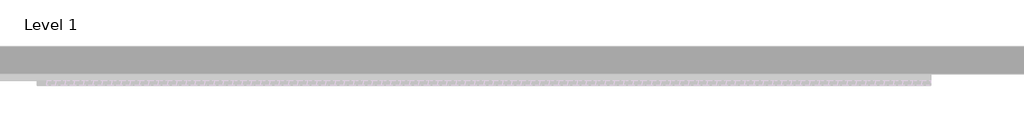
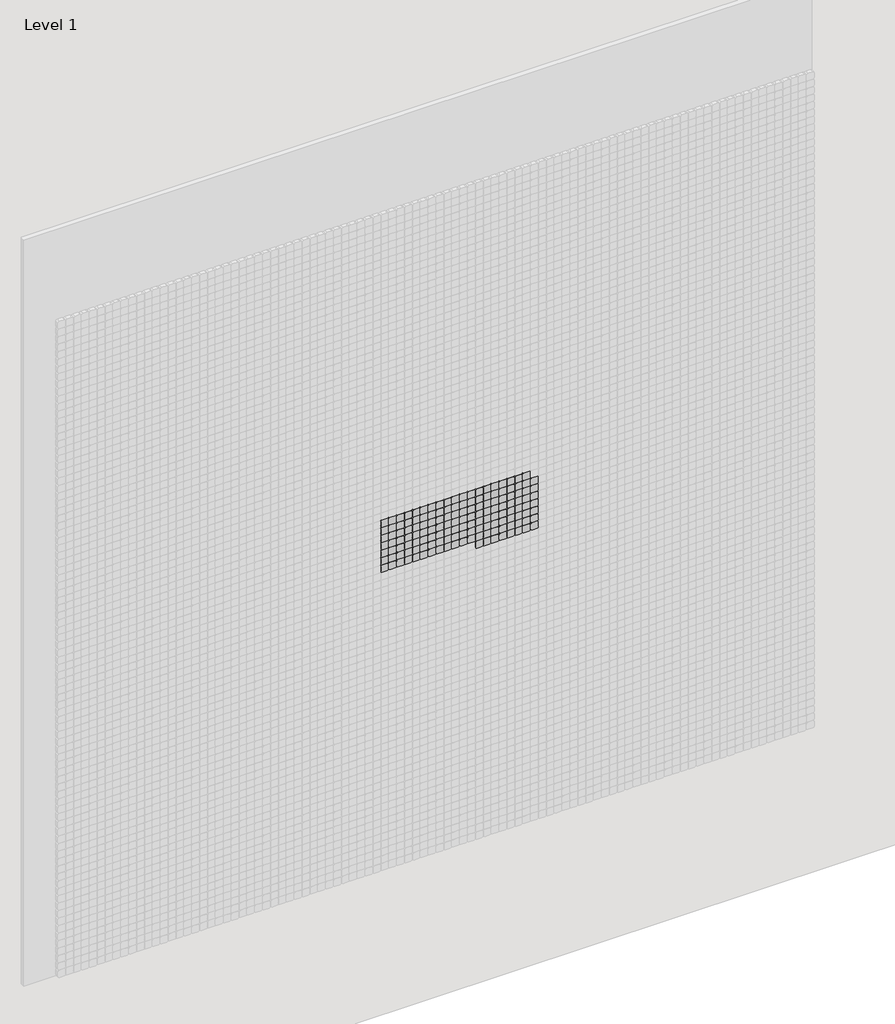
# One storey, part 42 of 71: 147 proxies.
"""IFC4 building model written with IfcOpenShell, lengths in millimetres."""

from ifc_helpers import new_model, si_unit, origin, place, context, project, spatial, transform, mapped, element, save
from components import generic_models_afde289c

model = new_model("IFC4")

# Units and contexts
model_context = context("Model", 3, world=origin())
ifc_project = project(units=[si_unit("LENGTHUNIT", "METRE", prefix="MILLI")], contexts=[model_context])

# Site, building, storey
site = spatial("IfcSite", under=ifc_project)
building = spatial("IfcBuilding", under=site)
storey = spatial("IfcBuildingStorey", under=building, Name="Level 1", Elevation=0.0)

# Proxies
placement = place(None, origin())
generic_models_shape = generic_models_afde289c(model_context)
element("IfcBuildingElementProxy", 1, Name="Pixel_M : Pixel_M", ObjectType="Pixel_M : Pixel_M", at=placement, inside=storey, context=model_context, shape_type="MappedRepresentation", body=[
    mapped(generic_models_shape, transform((7912.4280941, -75.0, 3316.3566215), x_axis=(1.0, 0.0, 0.0), y_axis=(0.0, 0.0, 1.0), z_axis=(0.0, -1.0, 0.0))),
])
element("IfcBuildingElementProxy", 2, Name="Pixel_M : Pixel_M", ObjectType="Pixel_M : Pixel_M", at=placement, inside=storey, context=model_context, shape_type="MappedRepresentation", body=[
    mapped(generic_models_shape, transform((7862.4280941, -75.0, 3316.3566215), x_axis=(1.0, 0.0, 0.0), y_axis=(0.0, 0.0, 1.0), z_axis=(0.0, -1.0, 0.0))),
])
element("IfcBuildingElementProxy", 3, Name="Pixel_M : Pixel_M", ObjectType="Pixel_M : Pixel_M", at=placement, inside=storey, context=model_context, shape_type="MappedRepresentation", body=[
    mapped(generic_models_shape, transform((7812.4280941, -75.0, 3316.3566215), x_axis=(1.0, 0.0, 0.0), y_axis=(0.0, 0.0, 1.0), z_axis=(0.0, -1.0, 0.0))),
])
element("IfcBuildingElementProxy", 4, Name="Pixel_M : Pixel_M", ObjectType="Pixel_M : Pixel_M", at=placement, inside=storey, context=model_context, shape_type="MappedRepresentation", body=[
    mapped(generic_models_shape, transform((7762.4280941, -75.0, 3316.3566215), x_axis=(1.0, 0.0, 0.0), y_axis=(0.0, 0.0, 1.0), z_axis=(0.0, -1.0, 0.0))),
])
element("IfcBuildingElementProxy", 5, Name="Pixel_M : Pixel_M", ObjectType="Pixel_M : Pixel_M", at=placement, inside=storey, context=model_context, shape_type="MappedRepresentation", body=[
    mapped(generic_models_shape, transform((7712.4280941, -75.0, 3316.3566215), x_axis=(1.0, 0.0, 0.0), y_axis=(0.0, 0.0, 1.0), z_axis=(0.0, -1.0, 0.0))),
])
element("IfcBuildingElementProxy", 6, Name="Pixel_M : Pixel_M", ObjectType="Pixel_M : Pixel_M", at=placement, inside=storey, context=model_context, shape_type="MappedRepresentation", body=[
    mapped(generic_models_shape, transform((7662.4280941, -75.0, 3316.3566215), x_axis=(1.0, 0.0, 0.0), y_axis=(0.0, 0.0, 1.0), z_axis=(0.0, -1.0, 0.0))),
])
element("IfcBuildingElementProxy", 7, Name="Pixel_M : Pixel_M", ObjectType="Pixel_M : Pixel_M", at=placement, inside=storey, context=model_context, shape_type="MappedRepresentation", body=[
    mapped(generic_models_shape, transform((7612.4280941, -75.0, 3316.3566215), x_axis=(1.0, 0.0, 0.0), y_axis=(0.0, 0.0, 1.0), z_axis=(0.0, -1.0, 0.0))),
])
element("IfcBuildingElementProxy", 8, Name="Pixel_M : Pixel_M", ObjectType="Pixel_M : Pixel_M", at=placement, inside=storey, context=model_context, shape_type="MappedRepresentation", body=[
    mapped(generic_models_shape, transform((7562.4280941, -75.0, 3316.3566215), x_axis=(1.0, 0.0, 0.0), y_axis=(0.0, 0.0, 1.0), z_axis=(0.0, -1.0, 0.0))),
])
element("IfcBuildingElementProxy", 9, Name="Pixel_M : Pixel_M", ObjectType="Pixel_M : Pixel_M", at=placement, inside=storey, context=model_context, shape_type="MappedRepresentation", body=[
    mapped(generic_models_shape, transform((7512.4280941, -75.0, 3316.3566215), x_axis=(1.0, 0.0, 0.0), y_axis=(0.0, 0.0, 1.0), z_axis=(0.0, -1.0, 0.0))),
])
element("IfcBuildingElementProxy", 10, Name="Pixel_M : Pixel_M", ObjectType="Pixel_M : Pixel_M", at=placement, inside=storey, context=model_context, shape_type="MappedRepresentation", body=[
    mapped(generic_models_shape, transform((7462.4280941, -75.0, 3316.3566215), x_axis=(1.0, 0.0, 0.0), y_axis=(0.0, 0.0, 1.0), z_axis=(0.0, -1.0, 0.0))),
])
element("IfcBuildingElementProxy", 11, Name="Pixel_M : Pixel_M", ObjectType="Pixel_M : Pixel_M", at=placement, inside=storey, context=model_context, shape_type="MappedRepresentation", body=[
    mapped(generic_models_shape, transform((7412.4280941, -75.0, 3316.3566215), x_axis=(1.0, 0.0, 0.0), y_axis=(0.0, 0.0, 1.0), z_axis=(0.0, -1.0, 0.0))),
])
element("IfcBuildingElementProxy", 12, Name="Pixel_M : Pixel_M", ObjectType="Pixel_M : Pixel_M", at=placement, inside=storey, context=model_context, shape_type="MappedRepresentation", body=[
    mapped(generic_models_shape, transform((7362.4280941, -75.0, 3316.3566215), x_axis=(1.0, 0.0, 0.0), y_axis=(0.0, 0.0, 1.0), z_axis=(0.0, -1.0, 0.0))),
])
element("IfcBuildingElementProxy", 13, Name="Pixel_M : Pixel_M", ObjectType="Pixel_M : Pixel_M", at=placement, inside=storey, context=model_context, shape_type="MappedRepresentation", body=[
    mapped(generic_models_shape, transform((7312.4280941, -75.0, 3316.3566215), x_axis=(1.0, 0.0, 0.0), y_axis=(0.0, 0.0, 1.0), z_axis=(0.0, -1.0, 0.0))),
])
element("IfcBuildingElementProxy", 14, Name="Pixel_M : Pixel_M", ObjectType="Pixel_M : Pixel_M", at=placement, inside=storey, context=model_context, shape_type="MappedRepresentation", body=[
    mapped(generic_models_shape, transform((7262.4280941, -75.0, 3316.3566215), x_axis=(1.0, 0.0, 0.0), y_axis=(0.0, 0.0, 1.0), z_axis=(0.0, -1.0, 0.0))),
])
element("IfcBuildingElementProxy", 15, Name="Pixel_M : Pixel_M", ObjectType="Pixel_M : Pixel_M", at=placement, inside=storey, context=model_context, shape_type="MappedRepresentation", body=[
    mapped(generic_models_shape, transform((7212.4280941, -75.0, 3316.3566215), x_axis=(1.0, 0.0, 0.0), y_axis=(0.0, 0.0, 1.0), z_axis=(0.0, -1.0, 0.0))),
])
element("IfcBuildingElementProxy", 16, Name="Pixel_M : Pixel_M", ObjectType="Pixel_M : Pixel_M", at=placement, inside=storey, context=model_context, shape_type="MappedRepresentation", body=[
    mapped(generic_models_shape, transform((7162.4280941, -75.0, 3316.3566215), x_axis=(1.0, 0.0, 0.0), y_axis=(0.0, 0.0, 1.0), z_axis=(0.0, -1.0, 0.0))),
])
element("IfcBuildingElementProxy", 17, Name="Pixel_M : Pixel_M", ObjectType="Pixel_M : Pixel_M", at=placement, inside=storey, context=model_context, shape_type="MappedRepresentation", body=[
    mapped(generic_models_shape, transform((7112.4280941, -75.0, 3316.3566215), x_axis=(1.0, 0.0, 0.0), y_axis=(0.0, 0.0, 1.0), z_axis=(0.0, -1.0, 0.0))),
])
element("IfcBuildingElementProxy", 18, Name="Pixel_M : Pixel_M", ObjectType="Pixel_M : Pixel_M", at=placement, inside=storey, context=model_context, shape_type="MappedRepresentation", body=[
    mapped(generic_models_shape, transform((7062.4280941, -75.0, 3316.3566215), x_axis=(1.0, 0.0, 0.0), y_axis=(0.0, 0.0, 1.0), z_axis=(0.0, -1.0, 0.0))),
])
element("IfcBuildingElementProxy", 19, Name="Pixel_M : Pixel_M", ObjectType="Pixel_M : Pixel_M", at=placement, inside=storey, context=model_context, shape_type="MappedRepresentation", body=[
    mapped(generic_models_shape, transform((7012.4280941, -75.0, 3316.3566215), x_axis=(1.0, 0.0, 0.0), y_axis=(0.0, 0.0, 1.0), z_axis=(0.0, -1.0, 0.0))),
])
element("IfcBuildingElementProxy", 20, Name="Pixel_M : Pixel_M", ObjectType="Pixel_M : Pixel_M", at=placement, inside=storey, context=model_context, shape_type="MappedRepresentation", body=[
    mapped(generic_models_shape, transform((7962.4280941, -75.0, 3266.3566215), x_axis=(1.0, 0.0, 0.0), y_axis=(0.0, 0.0, 1.0), z_axis=(0.0, -1.0, 0.0))),
])
element("IfcBuildingElementProxy", 21, Name="Pixel_M : Pixel_M", ObjectType="Pixel_M : Pixel_M", at=placement, inside=storey, context=model_context, shape_type="MappedRepresentation", body=[
    mapped(generic_models_shape, transform((7912.4280941, -75.0, 3266.3566215), x_axis=(1.0, 0.0, 0.0), y_axis=(0.0, 0.0, 1.0), z_axis=(0.0, -1.0, 0.0))),
])
element("IfcBuildingElementProxy", 22, Name="Pixel_M : Pixel_M", ObjectType="Pixel_M : Pixel_M", at=placement, inside=storey, context=model_context, shape_type="MappedRepresentation", body=[
    mapped(generic_models_shape, transform((7862.4280941, -75.0, 3266.3566215), x_axis=(1.0, 0.0, 0.0), y_axis=(0.0, 0.0, 1.0), z_axis=(0.0, -1.0, 0.0))),
])
element("IfcBuildingElementProxy", 23, Name="Pixel_M : Pixel_M", ObjectType="Pixel_M : Pixel_M", at=placement, inside=storey, context=model_context, shape_type="MappedRepresentation", body=[
    mapped(generic_models_shape, transform((7812.4280941, -75.0, 3266.3566215), x_axis=(1.0, 0.0, 0.0), y_axis=(0.0, 0.0, 1.0), z_axis=(0.0, -1.0, 0.0))),
])
element("IfcBuildingElementProxy", 24, Name="Pixel_M : Pixel_M", ObjectType="Pixel_M : Pixel_M", at=placement, inside=storey, context=model_context, shape_type="MappedRepresentation", body=[
    mapped(generic_models_shape, transform((7762.4280941, -75.0, 3266.3566215), x_axis=(1.0, 0.0, 0.0), y_axis=(0.0, 0.0, 1.0), z_axis=(0.0, -1.0, 0.0))),
])
element("IfcBuildingElementProxy", 25, Name="Pixel_M : Pixel_M", ObjectType="Pixel_M : Pixel_M", at=placement, inside=storey, context=model_context, shape_type="MappedRepresentation", body=[
    mapped(generic_models_shape, transform((7712.4280941, -75.0, 3266.3566215), x_axis=(1.0, 0.0, 0.0), y_axis=(0.0, 0.0, 1.0), z_axis=(0.0, -1.0, 0.0))),
])
element("IfcBuildingElementProxy", 26, Name="Pixel_M : Pixel_M", ObjectType="Pixel_M : Pixel_M", at=placement, inside=storey, context=model_context, shape_type="MappedRepresentation", body=[
    mapped(generic_models_shape, transform((7662.4280941, -75.0, 3266.3566215), x_axis=(1.0, 0.0, 0.0), y_axis=(0.0, 0.0, 1.0), z_axis=(0.0, -1.0, 0.0))),
])
element("IfcBuildingElementProxy", 27, Name="Pixel_M : Pixel_M", ObjectType="Pixel_M : Pixel_M", at=placement, inside=storey, context=model_context, shape_type="MappedRepresentation", body=[
    mapped(generic_models_shape, transform((7612.4280941, -75.0, 3266.3566215), x_axis=(1.0, 0.0, 0.0), y_axis=(0.0, 0.0, 1.0), z_axis=(0.0, -1.0, 0.0))),
])
element("IfcBuildingElementProxy", 28, Name="Pixel_M : Pixel_M", ObjectType="Pixel_M : Pixel_M", at=placement, inside=storey, context=model_context, shape_type="MappedRepresentation", body=[
    mapped(generic_models_shape, transform((7562.4280941, -75.0, 3266.3566215), x_axis=(1.0, 0.0, 0.0), y_axis=(0.0, 0.0, 1.0), z_axis=(0.0, -1.0, 0.0))),
])
element("IfcBuildingElementProxy", 29, Name="Pixel_M : Pixel_M", ObjectType="Pixel_M : Pixel_M", at=placement, inside=storey, context=model_context, shape_type="MappedRepresentation", body=[
    mapped(generic_models_shape, transform((7512.4280941, -75.0, 3266.3566215), x_axis=(1.0, 0.0, 0.0), y_axis=(0.0, 0.0, 1.0), z_axis=(0.0, -1.0, 0.0))),
])
element("IfcBuildingElementProxy", 30, Name="Pixel_M : Pixel_M", ObjectType="Pixel_M : Pixel_M", at=placement, inside=storey, context=model_context, shape_type="MappedRepresentation", body=[
    mapped(generic_models_shape, transform((7462.4280941, -75.0, 3266.3566215), x_axis=(1.0, 0.0, 0.0), y_axis=(0.0, 0.0, 1.0), z_axis=(0.0, -1.0, 0.0))),
])
element("IfcBuildingElementProxy", 31, Name="Pixel_M : Pixel_M", ObjectType="Pixel_M : Pixel_M", at=placement, inside=storey, context=model_context, shape_type="MappedRepresentation", body=[
    mapped(generic_models_shape, transform((7412.4280941, -75.0, 3266.3566215), x_axis=(1.0, 0.0, 0.0), y_axis=(0.0, 0.0, 1.0), z_axis=(0.0, -1.0, 0.0))),
])
element("IfcBuildingElementProxy", 32, Name="Pixel_M : Pixel_M", ObjectType="Pixel_M : Pixel_M", at=placement, inside=storey, context=model_context, shape_type="MappedRepresentation", body=[
    mapped(generic_models_shape, transform((7362.4280941, -75.0, 3266.3566215), x_axis=(1.0, 0.0, 0.0), y_axis=(0.0, 0.0, 1.0), z_axis=(0.0, -1.0, 0.0))),
])
element("IfcBuildingElementProxy", 33, Name="Pixel_M : Pixel_M", ObjectType="Pixel_M : Pixel_M", at=placement, inside=storey, context=model_context, shape_type="MappedRepresentation", body=[
    mapped(generic_models_shape, transform((7312.4280941, -75.0, 3266.3566215), x_axis=(1.0, 0.0, 0.0), y_axis=(0.0, 0.0, 1.0), z_axis=(0.0, -1.0, 0.0))),
])
element("IfcBuildingElementProxy", 34, Name="Pixel_M : Pixel_M", ObjectType="Pixel_M : Pixel_M", at=placement, inside=storey, context=model_context, shape_type="MappedRepresentation", body=[
    mapped(generic_models_shape, transform((7262.4280941, -75.0, 3266.3566215), x_axis=(1.0, 0.0, 0.0), y_axis=(0.0, 0.0, 1.0), z_axis=(0.0, -1.0, 0.0))),
])
element("IfcBuildingElementProxy", 35, Name="Pixel_M : Pixel_M", ObjectType="Pixel_M : Pixel_M", at=placement, inside=storey, context=model_context, shape_type="MappedRepresentation", body=[
    mapped(generic_models_shape, transform((7212.4280941, -75.0, 3266.3566215), x_axis=(1.0, 0.0, 0.0), y_axis=(0.0, 0.0, 1.0), z_axis=(0.0, -1.0, 0.0))),
])
element("IfcBuildingElementProxy", 36, Name="Pixel_M : Pixel_M", ObjectType="Pixel_M : Pixel_M", at=placement, inside=storey, context=model_context, shape_type="MappedRepresentation", body=[
    mapped(generic_models_shape, transform((7162.4280941, -75.0, 3266.3566215), x_axis=(1.0, 0.0, 0.0), y_axis=(0.0, 0.0, 1.0), z_axis=(0.0, -1.0, 0.0))),
])
element("IfcBuildingElementProxy", 37, Name="Pixel_M : Pixel_M", ObjectType="Pixel_M : Pixel_M", at=placement, inside=storey, context=model_context, shape_type="MappedRepresentation", body=[
    mapped(generic_models_shape, transform((7112.4280941, -75.0, 3266.3566215), x_axis=(1.0, 0.0, 0.0), y_axis=(0.0, 0.0, 1.0), z_axis=(0.0, -1.0, 0.0))),
])
element("IfcBuildingElementProxy", 38, Name="Pixel_M : Pixel_M", ObjectType="Pixel_M : Pixel_M", at=placement, inside=storey, context=model_context, shape_type="MappedRepresentation", body=[
    mapped(generic_models_shape, transform((7062.4280941, -75.0, 3266.3566215), x_axis=(1.0, 0.0, 0.0), y_axis=(0.0, 0.0, 1.0), z_axis=(0.0, -1.0, 0.0))),
])
element("IfcBuildingElementProxy", 39, Name="Pixel_M : Pixel_M", ObjectType="Pixel_M : Pixel_M", at=placement, inside=storey, context=model_context, shape_type="MappedRepresentation", body=[
    mapped(generic_models_shape, transform((7012.4280941, -75.0, 3266.3566215), x_axis=(1.0, 0.0, 0.0), y_axis=(0.0, 0.0, 1.0), z_axis=(0.0, -1.0, 0.0))),
])
element("IfcBuildingElementProxy", 40, Name="Pixel_M : Pixel_M", ObjectType="Pixel_M : Pixel_M", at=placement, inside=storey, context=model_context, shape_type="MappedRepresentation", body=[
    mapped(generic_models_shape, transform((7962.4280941, -75.0, 3216.3566215), x_axis=(1.0, 0.0, 0.0), y_axis=(0.0, 0.0, 1.0), z_axis=(0.0, -1.0, 0.0))),
])
element("IfcBuildingElementProxy", 41, Name="Pixel_M : Pixel_M", ObjectType="Pixel_M : Pixel_M", at=placement, inside=storey, context=model_context, shape_type="MappedRepresentation", body=[
    mapped(generic_models_shape, transform((7912.4280941, -75.0, 3216.3566215), x_axis=(1.0, 0.0, 0.0), y_axis=(0.0, 0.0, 1.0), z_axis=(0.0, -1.0, 0.0))),
])
element("IfcBuildingElementProxy", 42, Name="Pixel_M : Pixel_M", ObjectType="Pixel_M : Pixel_M", at=placement, inside=storey, context=model_context, shape_type="MappedRepresentation", body=[
    mapped(generic_models_shape, transform((7862.4280941, -75.0, 3216.3566215), x_axis=(1.0, 0.0, 0.0), y_axis=(0.0, 0.0, 1.0), z_axis=(0.0, -1.0, 0.0))),
])
element("IfcBuildingElementProxy", 43, Name="Pixel_M : Pixel_M", ObjectType="Pixel_M : Pixel_M", at=placement, inside=storey, context=model_context, shape_type="MappedRepresentation", body=[
    mapped(generic_models_shape, transform((7812.4280941, -75.0, 3216.3566215), x_axis=(1.0, 0.0, 0.0), y_axis=(0.0, 0.0, 1.0), z_axis=(0.0, -1.0, 0.0))),
])
element("IfcBuildingElementProxy", 44, Name="Pixel_M : Pixel_M", ObjectType="Pixel_M : Pixel_M", at=placement, inside=storey, context=model_context, shape_type="MappedRepresentation", body=[
    mapped(generic_models_shape, transform((7762.4280941, -75.0, 3216.3566215), x_axis=(1.0, 0.0, 0.0), y_axis=(0.0, 0.0, 1.0), z_axis=(0.0, -1.0, 0.0))),
])
element("IfcBuildingElementProxy", 45, Name="Pixel_M : Pixel_M", ObjectType="Pixel_M : Pixel_M", at=placement, inside=storey, context=model_context, shape_type="MappedRepresentation", body=[
    mapped(generic_models_shape, transform((7712.4280941, -75.0, 3216.3566215), x_axis=(1.0, 0.0, 0.0), y_axis=(0.0, 0.0, 1.0), z_axis=(0.0, -1.0, 0.0))),
])
element("IfcBuildingElementProxy", 46, Name="Pixel_M : Pixel_M", ObjectType="Pixel_M : Pixel_M", at=placement, inside=storey, context=model_context, shape_type="MappedRepresentation", body=[
    mapped(generic_models_shape, transform((7662.4280941, -75.0, 3216.3566215), x_axis=(1.0, 0.0, 0.0), y_axis=(0.0, 0.0, 1.0), z_axis=(0.0, -1.0, 0.0))),
])
element("IfcBuildingElementProxy", 47, Name="Pixel_M : Pixel_M", ObjectType="Pixel_M : Pixel_M", at=placement, inside=storey, context=model_context, shape_type="MappedRepresentation", body=[
    mapped(generic_models_shape, transform((7612.4280941, -75.0, 3216.3566215), x_axis=(1.0, 0.0, 0.0), y_axis=(0.0, 0.0, 1.0), z_axis=(0.0, -1.0, 0.0))),
])
element("IfcBuildingElementProxy", 48, Name="Pixel_M : Pixel_M", ObjectType="Pixel_M : Pixel_M", at=placement, inside=storey, context=model_context, shape_type="MappedRepresentation", body=[
    mapped(generic_models_shape, transform((7562.4280941, -75.0, 3216.3566215), x_axis=(1.0, 0.0, 0.0), y_axis=(0.0, 0.0, 1.0), z_axis=(0.0, -1.0, 0.0))),
])
element("IfcBuildingElementProxy", 49, Name="Pixel_M : Pixel_M", ObjectType="Pixel_M : Pixel_M", at=placement, inside=storey, context=model_context, shape_type="MappedRepresentation", body=[
    mapped(generic_models_shape, transform((7512.4280941, -75.0, 3216.3566215), x_axis=(1.0, 0.0, 0.0), y_axis=(0.0, 0.0, 1.0), z_axis=(0.0, -1.0, 0.0))),
])
element("IfcBuildingElementProxy", 50, Name="Pixel_M : Pixel_M", ObjectType="Pixel_M : Pixel_M", at=placement, inside=storey, context=model_context, shape_type="MappedRepresentation", body=[
    mapped(generic_models_shape, transform((7462.4280941, -75.0, 3216.3566215), x_axis=(1.0, 0.0, 0.0), y_axis=(0.0, 0.0, 1.0), z_axis=(0.0, -1.0, 0.0))),
])
element("IfcBuildingElementProxy", 51, Name="Pixel_M : Pixel_M", ObjectType="Pixel_M : Pixel_M", at=placement, inside=storey, context=model_context, shape_type="MappedRepresentation", body=[
    mapped(generic_models_shape, transform((7412.4280941, -75.0, 3216.3566215), x_axis=(1.0, 0.0, 0.0), y_axis=(0.0, 0.0, 1.0), z_axis=(0.0, -1.0, 0.0))),
])
element("IfcBuildingElementProxy", 52, Name="Pixel_M : Pixel_M", ObjectType="Pixel_M : Pixel_M", at=placement, inside=storey, context=model_context, shape_type="MappedRepresentation", body=[
    mapped(generic_models_shape, transform((7362.4280941, -75.0, 3216.3566215), x_axis=(1.0, 0.0, 0.0), y_axis=(0.0, 0.0, 1.0), z_axis=(0.0, -1.0, 0.0))),
])
element("IfcBuildingElementProxy", 53, Name="Pixel_M : Pixel_M", ObjectType="Pixel_M : Pixel_M", at=placement, inside=storey, context=model_context, shape_type="MappedRepresentation", body=[
    mapped(generic_models_shape, transform((7312.4280941, -75.0, 3216.3566215), x_axis=(1.0, 0.0, 0.0), y_axis=(0.0, 0.0, 1.0), z_axis=(0.0, -1.0, 0.0))),
])
element("IfcBuildingElementProxy", 54, Name="Pixel_M : Pixel_M", ObjectType="Pixel_M : Pixel_M", at=placement, inside=storey, context=model_context, shape_type="MappedRepresentation", body=[
    mapped(generic_models_shape, transform((7262.4280941, -75.0, 3216.3566215), x_axis=(1.0, 0.0, 0.0), y_axis=(0.0, 0.0, 1.0), z_axis=(0.0, -1.0, 0.0))),
])
element("IfcBuildingElementProxy", 55, Name="Pixel_M : Pixel_M", ObjectType="Pixel_M : Pixel_M", at=placement, inside=storey, context=model_context, shape_type="MappedRepresentation", body=[
    mapped(generic_models_shape, transform((7212.4280941, -75.0, 3216.3566215), x_axis=(1.0, 0.0, 0.0), y_axis=(0.0, 0.0, 1.0), z_axis=(0.0, -1.0, 0.0))),
])
element("IfcBuildingElementProxy", 56, Name="Pixel_M : Pixel_M", ObjectType="Pixel_M : Pixel_M", at=placement, inside=storey, context=model_context, shape_type="MappedRepresentation", body=[
    mapped(generic_models_shape, transform((7162.4280941, -75.0, 3216.3566215), x_axis=(1.0, 0.0, 0.0), y_axis=(0.0, 0.0, 1.0), z_axis=(0.0, -1.0, 0.0))),
])
element("IfcBuildingElementProxy", 57, Name="Pixel_M : Pixel_M", ObjectType="Pixel_M : Pixel_M", at=placement, inside=storey, context=model_context, shape_type="MappedRepresentation", body=[
    mapped(generic_models_shape, transform((7112.4280941, -75.0, 3216.3566215), x_axis=(1.0, 0.0, 0.0), y_axis=(0.0, 0.0, 1.0), z_axis=(0.0, -1.0, 0.0))),
])
element("IfcBuildingElementProxy", 58, Name="Pixel_M : Pixel_M", ObjectType="Pixel_M : Pixel_M", at=placement, inside=storey, context=model_context, shape_type="MappedRepresentation", body=[
    mapped(generic_models_shape, transform((7062.4280941, -75.0, 3216.3566215), x_axis=(1.0, 0.0, 0.0), y_axis=(0.0, 0.0, 1.0), z_axis=(0.0, -1.0, 0.0))),
])
element("IfcBuildingElementProxy", 59, Name="Pixel_M : Pixel_M", ObjectType="Pixel_M : Pixel_M", at=placement, inside=storey, context=model_context, shape_type="MappedRepresentation", body=[
    mapped(generic_models_shape, transform((7012.4280941, -75.0, 3216.3566215), x_axis=(1.0, 0.0, 0.0), y_axis=(0.0, 0.0, 1.0), z_axis=(0.0, -1.0, 0.0))),
])
element("IfcBuildingElementProxy", 60, Name="Pixel_M : Pixel_M", ObjectType="Pixel_M : Pixel_M", at=placement, inside=storey, context=model_context, shape_type="MappedRepresentation", body=[
    mapped(generic_models_shape, transform((7962.4280941, -75.0, 3166.3566215), x_axis=(1.0, 0.0, 0.0), y_axis=(0.0, 0.0, 1.0), z_axis=(0.0, -1.0, 0.0))),
])
element("IfcBuildingElementProxy", 61, Name="Pixel_M : Pixel_M", ObjectType="Pixel_M : Pixel_M", at=placement, inside=storey, context=model_context, shape_type="MappedRepresentation", body=[
    mapped(generic_models_shape, transform((7912.4280941, -75.0, 3166.3566215), x_axis=(1.0, 0.0, 0.0), y_axis=(0.0, 0.0, 1.0), z_axis=(0.0, -1.0, 0.0))),
])
element("IfcBuildingElementProxy", 62, Name="Pixel_M : Pixel_M", ObjectType="Pixel_M : Pixel_M", at=placement, inside=storey, context=model_context, shape_type="MappedRepresentation", body=[
    mapped(generic_models_shape, transform((7862.4280941, -75.0, 3166.3566215), x_axis=(1.0, 0.0, 0.0), y_axis=(0.0, 0.0, 1.0), z_axis=(0.0, -1.0, 0.0))),
])
element("IfcBuildingElementProxy", 63, Name="Pixel_M : Pixel_M", ObjectType="Pixel_M : Pixel_M", at=placement, inside=storey, context=model_context, shape_type="MappedRepresentation", body=[
    mapped(generic_models_shape, transform((7812.4280941, -75.0, 3166.3566215), x_axis=(1.0, 0.0, 0.0), y_axis=(0.0, 0.0, 1.0), z_axis=(0.0, -1.0, 0.0))),
])
element("IfcBuildingElementProxy", 64, Name="Pixel_M : Pixel_M", ObjectType="Pixel_M : Pixel_M", at=placement, inside=storey, context=model_context, shape_type="MappedRepresentation", body=[
    mapped(generic_models_shape, transform((7762.4280941, -75.0, 3166.3566215), x_axis=(1.0, 0.0, 0.0), y_axis=(0.0, 0.0, 1.0), z_axis=(0.0, -1.0, 0.0))),
])
element("IfcBuildingElementProxy", 65, Name="Pixel_M : Pixel_M", ObjectType="Pixel_M : Pixel_M", at=placement, inside=storey, context=model_context, shape_type="MappedRepresentation", body=[
    mapped(generic_models_shape, transform((7712.4280941, -75.0, 3166.3566215), x_axis=(1.0, 0.0, 0.0), y_axis=(0.0, 0.0, 1.0), z_axis=(0.0, -1.0, 0.0))),
])
element("IfcBuildingElementProxy", 66, Name="Pixel_M : Pixel_M", ObjectType="Pixel_M : Pixel_M", at=placement, inside=storey, context=model_context, shape_type="MappedRepresentation", body=[
    mapped(generic_models_shape, transform((7662.4280941, -75.0, 3166.3566215), x_axis=(1.0, 0.0, 0.0), y_axis=(0.0, 0.0, 1.0), z_axis=(0.0, -1.0, 0.0))),
])
element("IfcBuildingElementProxy", 67, Name="Pixel_M : Pixel_M", ObjectType="Pixel_M : Pixel_M", at=placement, inside=storey, context=model_context, shape_type="MappedRepresentation", body=[
    mapped(generic_models_shape, transform((7612.4280941, -75.0, 3166.3566215), x_axis=(1.0, 0.0, 0.0), y_axis=(0.0, 0.0, 1.0), z_axis=(0.0, -1.0, 0.0))),
])
element("IfcBuildingElementProxy", 68, Name="Pixel_M : Pixel_M", ObjectType="Pixel_M : Pixel_M", at=placement, inside=storey, context=model_context, shape_type="MappedRepresentation", body=[
    mapped(generic_models_shape, transform((7562.4280941, -75.0, 3166.3566215), x_axis=(1.0, 0.0, 0.0), y_axis=(0.0, 0.0, 1.0), z_axis=(0.0, -1.0, 0.0))),
])
element("IfcBuildingElementProxy", 69, Name="Pixel_M : Pixel_M", ObjectType="Pixel_M : Pixel_M", at=placement, inside=storey, context=model_context, shape_type="MappedRepresentation", body=[
    mapped(generic_models_shape, transform((7512.4280941, -75.0, 3166.3566215), x_axis=(1.0, 0.0, 0.0), y_axis=(0.0, 0.0, 1.0), z_axis=(0.0, -1.0, 0.0))),
])
element("IfcBuildingElementProxy", 70, Name="Pixel_M : Pixel_M", ObjectType="Pixel_M : Pixel_M", at=placement, inside=storey, context=model_context, shape_type="MappedRepresentation", body=[
    mapped(generic_models_shape, transform((7462.4280941, -75.0, 3166.3566215), x_axis=(1.0, 0.0, 0.0), y_axis=(0.0, 0.0, 1.0), z_axis=(0.0, -1.0, 0.0))),
])
element("IfcBuildingElementProxy", 71, Name="Pixel_M : Pixel_M", ObjectType="Pixel_M : Pixel_M", at=placement, inside=storey, context=model_context, shape_type="MappedRepresentation", body=[
    mapped(generic_models_shape, transform((7412.4280941, -75.0, 3166.3566215), x_axis=(1.0, 0.0, 0.0), y_axis=(0.0, 0.0, 1.0), z_axis=(0.0, -1.0, 0.0))),
])
element("IfcBuildingElementProxy", 72, Name="Pixel_M : Pixel_M", ObjectType="Pixel_M : Pixel_M", at=placement, inside=storey, context=model_context, shape_type="MappedRepresentation", body=[
    mapped(generic_models_shape, transform((7362.4280941, -75.0, 3166.3566215), x_axis=(1.0, 0.0, 0.0), y_axis=(0.0, 0.0, 1.0), z_axis=(0.0, -1.0, 0.0))),
])
element("IfcBuildingElementProxy", 73, Name="Pixel_M : Pixel_M", ObjectType="Pixel_M : Pixel_M", at=placement, inside=storey, context=model_context, shape_type="MappedRepresentation", body=[
    mapped(generic_models_shape, transform((7312.4280941, -75.0, 3166.3566215), x_axis=(1.0, 0.0, 0.0), y_axis=(0.0, 0.0, 1.0), z_axis=(0.0, -1.0, 0.0))),
])
element("IfcBuildingElementProxy", 74, Name="Pixel_M : Pixel_M", ObjectType="Pixel_M : Pixel_M", at=placement, inside=storey, context=model_context, shape_type="MappedRepresentation", body=[
    mapped(generic_models_shape, transform((7262.4280941, -75.0, 3166.3566215), x_axis=(1.0, 0.0, 0.0), y_axis=(0.0, 0.0, 1.0), z_axis=(0.0, -1.0, 0.0))),
])
element("IfcBuildingElementProxy", 75, Name="Pixel_M : Pixel_M", ObjectType="Pixel_M : Pixel_M", at=placement, inside=storey, context=model_context, shape_type="MappedRepresentation", body=[
    mapped(generic_models_shape, transform((7212.4280941, -75.0, 3166.3566215), x_axis=(1.0, 0.0, 0.0), y_axis=(0.0, 0.0, 1.0), z_axis=(0.0, -1.0, 0.0))),
])
element("IfcBuildingElementProxy", 76, Name="Pixel_M : Pixel_M", ObjectType="Pixel_M : Pixel_M", at=placement, inside=storey, context=model_context, shape_type="MappedRepresentation", body=[
    mapped(generic_models_shape, transform((7162.4280941, -75.0, 3166.3566215), x_axis=(1.0, 0.0, 0.0), y_axis=(0.0, 0.0, 1.0), z_axis=(0.0, -1.0, 0.0))),
])
element("IfcBuildingElementProxy", 77, Name="Pixel_M : Pixel_M", ObjectType="Pixel_M : Pixel_M", at=placement, inside=storey, context=model_context, shape_type="MappedRepresentation", body=[
    mapped(generic_models_shape, transform((7112.4280941, -75.0, 3166.3566215), x_axis=(1.0, 0.0, 0.0), y_axis=(0.0, 0.0, 1.0), z_axis=(0.0, -1.0, 0.0))),
])
element("IfcBuildingElementProxy", 78, Name="Pixel_M : Pixel_M", ObjectType="Pixel_M : Pixel_M", at=placement, inside=storey, context=model_context, shape_type="MappedRepresentation", body=[
    mapped(generic_models_shape, transform((7062.4280941, -75.0, 3166.3566215), x_axis=(1.0, 0.0, 0.0), y_axis=(0.0, 0.0, 1.0), z_axis=(0.0, -1.0, 0.0))),
])
element("IfcBuildingElementProxy", 79, Name="Pixel_M : Pixel_M", ObjectType="Pixel_M : Pixel_M", at=placement, inside=storey, context=model_context, shape_type="MappedRepresentation", body=[
    mapped(generic_models_shape, transform((7012.4280941, -75.0, 3166.3566215), x_axis=(1.0, 0.0, 0.0), y_axis=(0.0, 0.0, 1.0), z_axis=(0.0, -1.0, 0.0))),
])
element("IfcBuildingElementProxy", 80, Name="Pixel_M : Pixel_M", ObjectType="Pixel_M : Pixel_M", at=placement, inside=storey, context=model_context, shape_type="MappedRepresentation", body=[
    mapped(generic_models_shape, transform((7962.4280941, -75.0, 3116.3566215), x_axis=(1.0, 0.0, 0.0), y_axis=(0.0, 0.0, 1.0), z_axis=(0.0, -1.0, 0.0))),
])
element("IfcBuildingElementProxy", 81, Name="Pixel_M : Pixel_M", ObjectType="Pixel_M : Pixel_M", at=placement, inside=storey, context=model_context, shape_type="MappedRepresentation", body=[
    mapped(generic_models_shape, transform((7912.4280941, -75.0, 3116.3566215), x_axis=(1.0, 0.0, 0.0), y_axis=(0.0, 0.0, 1.0), z_axis=(0.0, -1.0, 0.0))),
])
element("IfcBuildingElementProxy", 82, Name="Pixel_M : Pixel_M", ObjectType="Pixel_M : Pixel_M", at=placement, inside=storey, context=model_context, shape_type="MappedRepresentation", body=[
    mapped(generic_models_shape, transform((7862.4280941, -75.0, 3116.3566215), x_axis=(1.0, 0.0, 0.0), y_axis=(0.0, 0.0, 1.0), z_axis=(0.0, -1.0, 0.0))),
])
element("IfcBuildingElementProxy", 83, Name="Pixel_M : Pixel_M", ObjectType="Pixel_M : Pixel_M", at=placement, inside=storey, context=model_context, shape_type="MappedRepresentation", body=[
    mapped(generic_models_shape, transform((7812.4280941, -75.0, 3116.3566215), x_axis=(1.0, 0.0, 0.0), y_axis=(0.0, 0.0, 1.0), z_axis=(0.0, -1.0, 0.0))),
])
element("IfcBuildingElementProxy", 84, Name="Pixel_M : Pixel_M", ObjectType="Pixel_M : Pixel_M", at=placement, inside=storey, context=model_context, shape_type="MappedRepresentation", body=[
    mapped(generic_models_shape, transform((7762.4280941, -75.0, 3116.3566215), x_axis=(1.0, 0.0, 0.0), y_axis=(0.0, 0.0, 1.0), z_axis=(0.0, -1.0, 0.0))),
])
element("IfcBuildingElementProxy", 85, Name="Pixel_M : Pixel_M", ObjectType="Pixel_M : Pixel_M", at=placement, inside=storey, context=model_context, shape_type="MappedRepresentation", body=[
    mapped(generic_models_shape, transform((7712.4280941, -75.0, 3116.3566215), x_axis=(1.0, 0.0, 0.0), y_axis=(0.0, 0.0, 1.0), z_axis=(0.0, -1.0, 0.0))),
])
element("IfcBuildingElementProxy", 86, Name="Pixel_M : Pixel_M", ObjectType="Pixel_M : Pixel_M", at=placement, inside=storey, context=model_context, shape_type="MappedRepresentation", body=[
    mapped(generic_models_shape, transform((7662.4280941, -75.0, 3116.3566215), x_axis=(1.0, 0.0, 0.0), y_axis=(0.0, 0.0, 1.0), z_axis=(0.0, -1.0, 0.0))),
])
element("IfcBuildingElementProxy", 87, Name="Pixel_M : Pixel_M", ObjectType="Pixel_M : Pixel_M", at=placement, inside=storey, context=model_context, shape_type="MappedRepresentation", body=[
    mapped(generic_models_shape, transform((7612.4280941, -75.0, 3116.3566215), x_axis=(1.0, 0.0, 0.0), y_axis=(0.0, 0.0, 1.0), z_axis=(0.0, -1.0, 0.0))),
])
element("IfcBuildingElementProxy", 88, Name="Pixel_M : Pixel_M", ObjectType="Pixel_M : Pixel_M", at=placement, inside=storey, context=model_context, shape_type="MappedRepresentation", body=[
    mapped(generic_models_shape, transform((7562.4280941, -75.0, 3116.3566215), x_axis=(1.0, 0.0, 0.0), y_axis=(0.0, 0.0, 1.0), z_axis=(0.0, -1.0, 0.0))),
])
element("IfcBuildingElementProxy", 89, Name="Pixel_M : Pixel_M", ObjectType="Pixel_M : Pixel_M", at=placement, inside=storey, context=model_context, shape_type="MappedRepresentation", body=[
    mapped(generic_models_shape, transform((7512.4280941, -75.0, 3116.3566215), x_axis=(1.0, 0.0, 0.0), y_axis=(0.0, 0.0, 1.0), z_axis=(0.0, -1.0, 0.0))),
])
element("IfcBuildingElementProxy", 90, Name="Pixel_M : Pixel_M", ObjectType="Pixel_M : Pixel_M", at=placement, inside=storey, context=model_context, shape_type="MappedRepresentation", body=[
    mapped(generic_models_shape, transform((7462.4280941, -75.0, 3116.3566215), x_axis=(1.0, 0.0, 0.0), y_axis=(0.0, 0.0, 1.0), z_axis=(0.0, -1.0, 0.0))),
])
element("IfcBuildingElementProxy", 91, Name="Pixel_M : Pixel_M", ObjectType="Pixel_M : Pixel_M", at=placement, inside=storey, context=model_context, shape_type="MappedRepresentation", body=[
    mapped(generic_models_shape, transform((7412.4280941, -75.0, 3116.3566215), x_axis=(1.0, 0.0, 0.0), y_axis=(0.0, 0.0, 1.0), z_axis=(0.0, -1.0, 0.0))),
])
element("IfcBuildingElementProxy", 92, Name="Pixel_M : Pixel_M", ObjectType="Pixel_M : Pixel_M", at=placement, inside=storey, context=model_context, shape_type="MappedRepresentation", body=[
    mapped(generic_models_shape, transform((7362.4280941, -75.0, 3116.3566215), x_axis=(1.0, 0.0, 0.0), y_axis=(0.0, 0.0, 1.0), z_axis=(0.0, -1.0, 0.0))),
])
element("IfcBuildingElementProxy", 93, Name="Pixel_M : Pixel_M", ObjectType="Pixel_M : Pixel_M", at=placement, inside=storey, context=model_context, shape_type="MappedRepresentation", body=[
    mapped(generic_models_shape, transform((7312.4280941, -75.0, 3116.3566215), x_axis=(1.0, 0.0, 0.0), y_axis=(0.0, 0.0, 1.0), z_axis=(0.0, -1.0, 0.0))),
])
element("IfcBuildingElementProxy", 94, Name="Pixel_M : Pixel_M", ObjectType="Pixel_M : Pixel_M", at=placement, inside=storey, context=model_context, shape_type="MappedRepresentation", body=[
    mapped(generic_models_shape, transform((7262.4280941, -75.0, 3116.3566215), x_axis=(1.0, 0.0, 0.0), y_axis=(0.0, 0.0, 1.0), z_axis=(0.0, -1.0, 0.0))),
])
element("IfcBuildingElementProxy", 95, Name="Pixel_M : Pixel_M", ObjectType="Pixel_M : Pixel_M", at=placement, inside=storey, context=model_context, shape_type="MappedRepresentation", body=[
    mapped(generic_models_shape, transform((7212.4280941, -75.0, 3116.3566215), x_axis=(1.0, 0.0, 0.0), y_axis=(0.0, 0.0, 1.0), z_axis=(0.0, -1.0, 0.0))),
])
element("IfcBuildingElementProxy", 96, Name="Pixel_M : Pixel_M", ObjectType="Pixel_M : Pixel_M", at=placement, inside=storey, context=model_context, shape_type="MappedRepresentation", body=[
    mapped(generic_models_shape, transform((7162.4280941, -75.0, 3116.3566215), x_axis=(1.0, 0.0, 0.0), y_axis=(0.0, 0.0, 1.0), z_axis=(0.0, -1.0, 0.0))),
])
element("IfcBuildingElementProxy", 97, Name="Pixel_M : Pixel_M", ObjectType="Pixel_M : Pixel_M", at=placement, inside=storey, context=model_context, shape_type="MappedRepresentation", body=[
    mapped(generic_models_shape, transform((7112.4280941, -75.0, 3116.3566215), x_axis=(1.0, 0.0, 0.0), y_axis=(0.0, 0.0, 1.0), z_axis=(0.0, -1.0, 0.0))),
])
element("IfcBuildingElementProxy", 98, Name="Pixel_M : Pixel_M", ObjectType="Pixel_M : Pixel_M", at=placement, inside=storey, context=model_context, shape_type="MappedRepresentation", body=[
    mapped(generic_models_shape, transform((7062.4280941, -75.0, 3116.3566215), x_axis=(1.0, 0.0, 0.0), y_axis=(0.0, 0.0, 1.0), z_axis=(0.0, -1.0, 0.0))),
])
element("IfcBuildingElementProxy", 99, Name="Pixel_M : Pixel_M", ObjectType="Pixel_M : Pixel_M", at=placement, inside=storey, context=model_context, shape_type="MappedRepresentation", body=[
    mapped(generic_models_shape, transform((7012.4280941, -75.0, 3116.3566215), x_axis=(1.0, 0.0, 0.0), y_axis=(0.0, 0.0, 1.0), z_axis=(0.0, -1.0, 0.0))),
])
element("IfcBuildingElementProxy", 100, Name="Pixel_M : Pixel_M", ObjectType="Pixel_M : Pixel_M", at=placement, inside=storey, context=model_context, shape_type="MappedRepresentation", body=[
    mapped(generic_models_shape, transform((7962.4280941, -75.0, 3066.3566215), x_axis=(1.0, 0.0, 0.0), y_axis=(0.0, 0.0, 1.0), z_axis=(0.0, -1.0, 0.0))),
])
element("IfcBuildingElementProxy", 101, Name="Pixel_M : Pixel_M", ObjectType="Pixel_M : Pixel_M", at=placement, inside=storey, context=model_context, shape_type="MappedRepresentation", body=[
    mapped(generic_models_shape, transform((7912.4280941, -75.0, 3066.3566215), x_axis=(1.0, 0.0, 0.0), y_axis=(0.0, 0.0, 1.0), z_axis=(0.0, -1.0, 0.0))),
])
element("IfcBuildingElementProxy", 102, Name="Pixel_M : Pixel_M", ObjectType="Pixel_M : Pixel_M", at=placement, inside=storey, context=model_context, shape_type="MappedRepresentation", body=[
    mapped(generic_models_shape, transform((7862.4280941, -75.0, 3066.3566215), x_axis=(1.0, 0.0, 0.0), y_axis=(0.0, 0.0, 1.0), z_axis=(0.0, -1.0, 0.0))),
])
element("IfcBuildingElementProxy", 103, Name="Pixel_M : Pixel_M", ObjectType="Pixel_M : Pixel_M", at=placement, inside=storey, context=model_context, shape_type="MappedRepresentation", body=[
    mapped(generic_models_shape, transform((7812.4280941, -75.0, 3066.3566215), x_axis=(1.0, 0.0, 0.0), y_axis=(0.0, 0.0, 1.0), z_axis=(0.0, -1.0, 0.0))),
])
element("IfcBuildingElementProxy", 104, Name="Pixel_M : Pixel_M", ObjectType="Pixel_M : Pixel_M", at=placement, inside=storey, context=model_context, shape_type="MappedRepresentation", body=[
    mapped(generic_models_shape, transform((7762.4280941, -75.0, 3066.3566215), x_axis=(1.0, 0.0, 0.0), y_axis=(0.0, 0.0, 1.0), z_axis=(0.0, -1.0, 0.0))),
])
element("IfcBuildingElementProxy", 105, Name="Pixel_M : Pixel_M", ObjectType="Pixel_M : Pixel_M", at=placement, inside=storey, context=model_context, shape_type="MappedRepresentation", body=[
    mapped(generic_models_shape, transform((7712.4280941, -75.0, 3066.3566215), x_axis=(1.0, 0.0, 0.0), y_axis=(0.0, 0.0, 1.0), z_axis=(0.0, -1.0, 0.0))),
])
element("IfcBuildingElementProxy", 106, Name="Pixel_M : Pixel_M", ObjectType="Pixel_M : Pixel_M", at=placement, inside=storey, context=model_context, shape_type="MappedRepresentation", body=[
    mapped(generic_models_shape, transform((7662.4280941, -75.0, 3066.3566215), x_axis=(1.0, 0.0, 0.0), y_axis=(0.0, 0.0, 1.0), z_axis=(0.0, -1.0, 0.0))),
])
element("IfcBuildingElementProxy", 107, Name="Pixel_M : Pixel_M", ObjectType="Pixel_M : Pixel_M", at=placement, inside=storey, context=model_context, shape_type="MappedRepresentation", body=[
    mapped(generic_models_shape, transform((7612.4280941, -75.0, 3066.3566215), x_axis=(1.0, 0.0, 0.0), y_axis=(0.0, 0.0, 1.0), z_axis=(0.0, -1.0, 0.0))),
])
element("IfcBuildingElementProxy", 108, Name="Pixel_M : Pixel_M", ObjectType="Pixel_M : Pixel_M", at=placement, inside=storey, context=model_context, shape_type="MappedRepresentation", body=[
    mapped(generic_models_shape, transform((7562.4280941, -75.0, 3066.3566215), x_axis=(1.0, 0.0, 0.0), y_axis=(0.0, 0.0, 1.0), z_axis=(0.0, -1.0, 0.0))),
])
element("IfcBuildingElementProxy", 109, Name="Pixel_M : Pixel_M", ObjectType="Pixel_M : Pixel_M", at=placement, inside=storey, context=model_context, shape_type="MappedRepresentation", body=[
    mapped(generic_models_shape, transform((7512.4280941, -75.0, 3066.3566215), x_axis=(1.0, 0.0, 0.0), y_axis=(0.0, 0.0, 1.0), z_axis=(0.0, -1.0, 0.0))),
])
element("IfcBuildingElementProxy", 110, Name="Pixel_M : Pixel_M", ObjectType="Pixel_M : Pixel_M", at=placement, inside=storey, context=model_context, shape_type="MappedRepresentation", body=[
    mapped(generic_models_shape, transform((7462.4280941, -75.0, 3066.3566215), x_axis=(1.0, 0.0, 0.0), y_axis=(0.0, 0.0, 1.0), z_axis=(0.0, -1.0, 0.0))),
])
element("IfcBuildingElementProxy", 111, Name="Pixel_M : Pixel_M", ObjectType="Pixel_M : Pixel_M", at=placement, inside=storey, context=model_context, shape_type="MappedRepresentation", body=[
    mapped(generic_models_shape, transform((7412.4280941, -75.0, 3066.3566215), x_axis=(1.0, 0.0, 0.0), y_axis=(0.0, 0.0, 1.0), z_axis=(0.0, -1.0, 0.0))),
])
element("IfcBuildingElementProxy", 112, Name="Pixel_M : Pixel_M", ObjectType="Pixel_M : Pixel_M", at=placement, inside=storey, context=model_context, shape_type="MappedRepresentation", body=[
    mapped(generic_models_shape, transform((7362.4280941, -75.0, 3066.3566215), x_axis=(1.0, 0.0, 0.0), y_axis=(0.0, 0.0, 1.0), z_axis=(0.0, -1.0, 0.0))),
])
element("IfcBuildingElementProxy", 113, Name="Pixel_M : Pixel_M", ObjectType="Pixel_M : Pixel_M", at=placement, inside=storey, context=model_context, shape_type="MappedRepresentation", body=[
    mapped(generic_models_shape, transform((7312.4280941, -75.0, 3066.3566215), x_axis=(1.0, 0.0, 0.0), y_axis=(0.0, 0.0, 1.0), z_axis=(0.0, -1.0, 0.0))),
])
element("IfcBuildingElementProxy", 114, Name="Pixel_M : Pixel_M", ObjectType="Pixel_M : Pixel_M", at=placement, inside=storey, context=model_context, shape_type="MappedRepresentation", body=[
    mapped(generic_models_shape, transform((7262.4280941, -75.0, 3066.3566215), x_axis=(1.0, 0.0, 0.0), y_axis=(0.0, 0.0, 1.0), z_axis=(0.0, -1.0, 0.0))),
])
element("IfcBuildingElementProxy", 115, Name="Pixel_M : Pixel_M", ObjectType="Pixel_M : Pixel_M", at=placement, inside=storey, context=model_context, shape_type="MappedRepresentation", body=[
    mapped(generic_models_shape, transform((7212.4280941, -75.0, 3066.3566215), x_axis=(1.0, 0.0, 0.0), y_axis=(0.0, 0.0, 1.0), z_axis=(0.0, -1.0, 0.0))),
])
element("IfcBuildingElementProxy", 116, Name="Pixel_M : Pixel_M", ObjectType="Pixel_M : Pixel_M", at=placement, inside=storey, context=model_context, shape_type="MappedRepresentation", body=[
    mapped(generic_models_shape, transform((7162.4280941, -75.0, 3066.3566215), x_axis=(1.0, 0.0, 0.0), y_axis=(0.0, 0.0, 1.0), z_axis=(0.0, -1.0, 0.0))),
])
element("IfcBuildingElementProxy", 117, Name="Pixel_M : Pixel_M", ObjectType="Pixel_M : Pixel_M", at=placement, inside=storey, context=model_context, shape_type="MappedRepresentation", body=[
    mapped(generic_models_shape, transform((7112.4280941, -75.0, 3066.3566215), x_axis=(1.0, 0.0, 0.0), y_axis=(0.0, 0.0, 1.0), z_axis=(0.0, -1.0, 0.0))),
])
element("IfcBuildingElementProxy", 118, Name="Pixel_M : Pixel_M", ObjectType="Pixel_M : Pixel_M", at=placement, inside=storey, context=model_context, shape_type="MappedRepresentation", body=[
    mapped(generic_models_shape, transform((7062.4280941, -75.0, 3066.3566215), x_axis=(1.0, 0.0, 0.0), y_axis=(0.0, 0.0, 1.0), z_axis=(0.0, -1.0, 0.0))),
])
element("IfcBuildingElementProxy", 119, Name="Pixel_M : Pixel_M", ObjectType="Pixel_M : Pixel_M", at=placement, inside=storey, context=model_context, shape_type="MappedRepresentation", body=[
    mapped(generic_models_shape, transform((7012.4280941, -75.0, 3066.3566215), x_axis=(1.0, 0.0, 0.0), y_axis=(0.0, 0.0, 1.0), z_axis=(0.0, -1.0, 0.0))),
])
element("IfcBuildingElementProxy", 120, Name="Pixel_M : Pixel_M", ObjectType="Pixel_M : Pixel_M", at=placement, inside=storey, context=model_context, shape_type="MappedRepresentation", body=[
    mapped(generic_models_shape, transform((7962.4280941, -75.0, 3016.3566215), x_axis=(1.0, 0.0, 0.0), y_axis=(0.0, 0.0, 1.0), z_axis=(0.0, -1.0, 0.0))),
])
element("IfcBuildingElementProxy", 121, Name="Pixel_M : Pixel_M", ObjectType="Pixel_M : Pixel_M", at=placement, inside=storey, context=model_context, shape_type="MappedRepresentation", body=[
    mapped(generic_models_shape, transform((7912.4280941, -75.0, 3016.3566215), x_axis=(1.0, 0.0, 0.0), y_axis=(0.0, 0.0, 1.0), z_axis=(0.0, -1.0, 0.0))),
])
element("IfcBuildingElementProxy", 122, Name="Pixel_M : Pixel_M", ObjectType="Pixel_M : Pixel_M", at=placement, inside=storey, context=model_context, shape_type="MappedRepresentation", body=[
    mapped(generic_models_shape, transform((7862.4280941, -75.0, 3016.3566215), x_axis=(1.0, 0.0, 0.0), y_axis=(0.0, 0.0, 1.0), z_axis=(0.0, -1.0, 0.0))),
])
element("IfcBuildingElementProxy", 123, Name="Pixel_M : Pixel_M", ObjectType="Pixel_M : Pixel_M", at=placement, inside=storey, context=model_context, shape_type="MappedRepresentation", body=[
    mapped(generic_models_shape, transform((7812.4280941, -75.0, 3016.3566215), x_axis=(1.0, 0.0, 0.0), y_axis=(0.0, 0.0, 1.0), z_axis=(0.0, -1.0, 0.0))),
])
element("IfcBuildingElementProxy", 124, Name="Pixel_M : Pixel_M", ObjectType="Pixel_M : Pixel_M", at=placement, inside=storey, context=model_context, shape_type="MappedRepresentation", body=[
    mapped(generic_models_shape, transform((7762.4280941, -75.0, 3016.3566215), x_axis=(1.0, 0.0, 0.0), y_axis=(0.0, 0.0, 1.0), z_axis=(0.0, -1.0, 0.0))),
])
element("IfcBuildingElementProxy", 125, Name="Pixel_M : Pixel_M", ObjectType="Pixel_M : Pixel_M", at=placement, inside=storey, context=model_context, shape_type="MappedRepresentation", body=[
    mapped(generic_models_shape, transform((7712.4280941, -75.0, 3016.3566215), x_axis=(1.0, 0.0, 0.0), y_axis=(0.0, 0.0, 1.0), z_axis=(0.0, -1.0, 0.0))),
])
element("IfcBuildingElementProxy", 126, Name="Pixel_M : Pixel_M", ObjectType="Pixel_M : Pixel_M", at=placement, inside=storey, context=model_context, shape_type="MappedRepresentation", body=[
    mapped(generic_models_shape, transform((7662.4280941, -75.0, 3016.3566215), x_axis=(1.0, 0.0, 0.0), y_axis=(0.0, 0.0, 1.0), z_axis=(0.0, -1.0, 0.0))),
])
element("IfcBuildingElementProxy", 127, Name="Pixel_M : Pixel_M", ObjectType="Pixel_M : Pixel_M", at=placement, inside=storey, context=model_context, shape_type="MappedRepresentation", body=[
    mapped(generic_models_shape, transform((7612.4280941, -75.0, 3016.3566215), x_axis=(1.0, 0.0, 0.0), y_axis=(0.0, 0.0, 1.0), z_axis=(0.0, -1.0, 0.0))),
])
element("IfcBuildingElementProxy", 128, Name="Pixel_M : Pixel_M", ObjectType="Pixel_M : Pixel_M", at=placement, inside=storey, context=model_context, shape_type="MappedRepresentation", body=[
    mapped(generic_models_shape, transform((7562.4280941, -75.0, 3016.3566215), x_axis=(1.0, 0.0, 0.0), y_axis=(0.0, 0.0, 1.0), z_axis=(0.0, -1.0, 0.0))),
])
element("IfcBuildingElementProxy", 129, Name="Pixel_M : Pixel_M", ObjectType="Pixel_M : Pixel_M", at=placement, inside=storey, context=model_context, shape_type="MappedRepresentation", body=[
    mapped(generic_models_shape, transform((7512.4280941, -75.0, 3016.3566215), x_axis=(1.0, 0.0, 0.0), y_axis=(0.0, 0.0, 1.0), z_axis=(0.0, -1.0, 0.0))),
])
element("IfcBuildingElementProxy", 130, Name="Pixel_M : Pixel_M", ObjectType="Pixel_M : Pixel_M", at=placement, inside=storey, context=model_context, shape_type="MappedRepresentation", body=[
    mapped(generic_models_shape, transform((7462.4280941, -75.0, 3016.3566215), x_axis=(1.0, 0.0, 0.0), y_axis=(0.0, 0.0, 1.0), z_axis=(0.0, -1.0, 0.0))),
])
element("IfcBuildingElementProxy", 131, Name="Pixel_M : Pixel_M", ObjectType="Pixel_M : Pixel_M", at=placement, inside=storey, context=model_context, shape_type="MappedRepresentation", body=[
    mapped(generic_models_shape, transform((7412.4280941, -75.0, 3016.3566215), x_axis=(1.0, 0.0, 0.0), y_axis=(0.0, 0.0, 1.0), z_axis=(0.0, -1.0, 0.0))),
])
element("IfcBuildingElementProxy", 132, Name="Pixel_M : Pixel_M", ObjectType="Pixel_M : Pixel_M", at=placement, inside=storey, context=model_context, shape_type="MappedRepresentation", body=[
    mapped(generic_models_shape, transform((7362.4280941, -75.0, 3016.3566215), x_axis=(1.0, 0.0, 0.0), y_axis=(0.0, 0.0, 1.0), z_axis=(0.0, -1.0, 0.0))),
])
element("IfcBuildingElementProxy", 133, Name="Pixel_M : Pixel_M", ObjectType="Pixel_M : Pixel_M", at=placement, inside=storey, context=model_context, shape_type="MappedRepresentation", body=[
    mapped(generic_models_shape, transform((7312.4280941, -75.0, 3016.3566215), x_axis=(1.0, 0.0, 0.0), y_axis=(0.0, 0.0, 1.0), z_axis=(0.0, -1.0, 0.0))),
])
element("IfcBuildingElementProxy", 134, Name="Pixel_M : Pixel_M", ObjectType="Pixel_M : Pixel_M", at=placement, inside=storey, context=model_context, shape_type="MappedRepresentation", body=[
    mapped(generic_models_shape, transform((7262.4280941, -75.0, 3016.3566215), x_axis=(1.0, 0.0, 0.0), y_axis=(0.0, 0.0, 1.0), z_axis=(0.0, -1.0, 0.0))),
])
element("IfcBuildingElementProxy", 135, Name="Pixel_M : Pixel_M", ObjectType="Pixel_M : Pixel_M", at=placement, inside=storey, context=model_context, shape_type="MappedRepresentation", body=[
    mapped(generic_models_shape, transform((7212.4280941, -75.0, 3016.3566215), x_axis=(1.0, 0.0, 0.0), y_axis=(0.0, 0.0, 1.0), z_axis=(0.0, -1.0, 0.0))),
])
element("IfcBuildingElementProxy", 136, Name="Pixel_M : Pixel_M", ObjectType="Pixel_M : Pixel_M", at=placement, inside=storey, context=model_context, shape_type="MappedRepresentation", body=[
    mapped(generic_models_shape, transform((7162.4280941, -75.0, 3016.3566215), x_axis=(1.0, 0.0, 0.0), y_axis=(0.0, 0.0, 1.0), z_axis=(0.0, -1.0, 0.0))),
])
element("IfcBuildingElementProxy", 137, Name="Pixel_M : Pixel_M", ObjectType="Pixel_M : Pixel_M", at=placement, inside=storey, context=model_context, shape_type="MappedRepresentation", body=[
    mapped(generic_models_shape, transform((7112.4280941, -75.0, 3016.3566215), x_axis=(1.0, 0.0, 0.0), y_axis=(0.0, 0.0, 1.0), z_axis=(0.0, -1.0, 0.0))),
])
element("IfcBuildingElementProxy", 138, Name="Pixel_M : Pixel_M", ObjectType="Pixel_M : Pixel_M", at=placement, inside=storey, context=model_context, shape_type="MappedRepresentation", body=[
    mapped(generic_models_shape, transform((7062.4280941, -75.0, 3016.3566215), x_axis=(1.0, 0.0, 0.0), y_axis=(0.0, 0.0, 1.0), z_axis=(0.0, -1.0, 0.0))),
])
element("IfcBuildingElementProxy", 139, Name="Pixel_M : Pixel_M", ObjectType="Pixel_M : Pixel_M", at=placement, inside=storey, context=model_context, shape_type="MappedRepresentation", body=[
    mapped(generic_models_shape, transform((7012.4280941, -75.0, 3016.3566215), x_axis=(1.0, 0.0, 0.0), y_axis=(0.0, 0.0, 1.0), z_axis=(0.0, -1.0, 0.0))),
])
element("IfcBuildingElementProxy", 140, Name="Pixel_M : Pixel_M", ObjectType="Pixel_M : Pixel_M", at=placement, inside=storey, context=model_context, shape_type="MappedRepresentation", body=[
    mapped(generic_models_shape, transform((7962.4280941, -75.0, 2966.3566215), x_axis=(1.0, 0.0, 0.0), y_axis=(0.0, 0.0, 1.0), z_axis=(0.0, -1.0, 0.0))),
])
element("IfcBuildingElementProxy", 141, Name="Pixel_M : Pixel_M", ObjectType="Pixel_M : Pixel_M", at=placement, inside=storey, context=model_context, shape_type="MappedRepresentation", body=[
    mapped(generic_models_shape, transform((7912.4280941, -75.0, 2966.3566215), x_axis=(1.0, 0.0, 0.0), y_axis=(0.0, 0.0, 1.0), z_axis=(0.0, -1.0, 0.0))),
])
element("IfcBuildingElementProxy", 142, Name="Pixel_M : Pixel_M", ObjectType="Pixel_M : Pixel_M", at=placement, inside=storey, context=model_context, shape_type="MappedRepresentation", body=[
    mapped(generic_models_shape, transform((7862.4280941, -75.0, 2966.3566215), x_axis=(1.0, 0.0, 0.0), y_axis=(0.0, 0.0, 1.0), z_axis=(0.0, -1.0, 0.0))),
])
element("IfcBuildingElementProxy", 143, Name="Pixel_M : Pixel_M", ObjectType="Pixel_M : Pixel_M", at=placement, inside=storey, context=model_context, shape_type="MappedRepresentation", body=[
    mapped(generic_models_shape, transform((7812.4280941, -75.0, 2966.3566215), x_axis=(1.0, 0.0, 0.0), y_axis=(0.0, 0.0, 1.0), z_axis=(0.0, -1.0, 0.0))),
])
element("IfcBuildingElementProxy", 144, Name="Pixel_M : Pixel_M", ObjectType="Pixel_M : Pixel_M", at=placement, inside=storey, context=model_context, shape_type="MappedRepresentation", body=[
    mapped(generic_models_shape, transform((7762.4280941, -75.0, 2966.3566215), x_axis=(1.0, 0.0, 0.0), y_axis=(0.0, 0.0, 1.0), z_axis=(0.0, -1.0, 0.0))),
])
element("IfcBuildingElementProxy", 145, Name="Pixel_M : Pixel_M", ObjectType="Pixel_M : Pixel_M", at=placement, inside=storey, context=model_context, shape_type="MappedRepresentation", body=[
    mapped(generic_models_shape, transform((7712.4280941, -75.0, 2966.3566215), x_axis=(1.0, 0.0, 0.0), y_axis=(0.0, 0.0, 1.0), z_axis=(0.0, -1.0, 0.0))),
])
element("IfcBuildingElementProxy", 146, Name="Pixel_M : Pixel_M", ObjectType="Pixel_M : Pixel_M", at=placement, inside=storey, context=model_context, shape_type="MappedRepresentation", body=[
    mapped(generic_models_shape, transform((7662.4280941, -75.0, 2966.3566215), x_axis=(1.0, 0.0, 0.0), y_axis=(0.0, 0.0, 1.0), z_axis=(0.0, -1.0, 0.0))),
])
element("IfcBuildingElementProxy", 147, Name="Pixel_M : Pixel_M", ObjectType="Pixel_M : Pixel_M", at=placement, inside=storey, context=model_context, shape_type="MappedRepresentation", body=[
    mapped(generic_models_shape, transform((7612.4280941, -75.0, 2966.3566215), x_axis=(1.0, 0.0, 0.0), y_axis=(0.0, 0.0, 1.0), z_axis=(0.0, -1.0, 0.0))),
])

save(model, "model.ifc")
